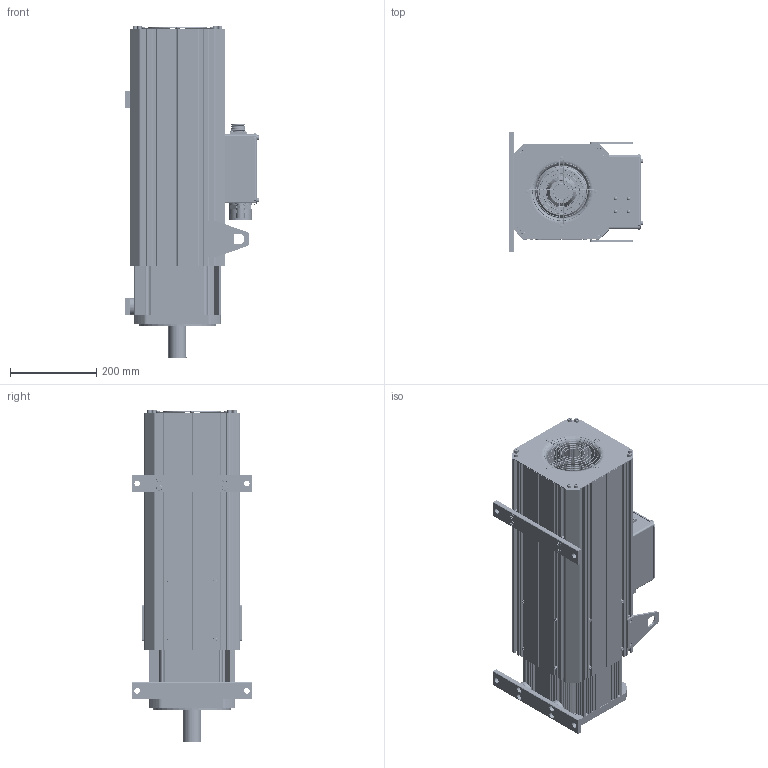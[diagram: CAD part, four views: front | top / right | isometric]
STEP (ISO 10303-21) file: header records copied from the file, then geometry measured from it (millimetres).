
FILE_DESCRIPTION((''),'2;1');
FILE_NAME('K111F15C18P_18KW_ASM','2023-05-23T14:28:35',('admin'),(''),'CREO PARAMETRIC BY PTC INC, 2019080','CREO PARAMETRIC BY PTC INC, 2019080','');
FILE_SCHEMA(('CONFIG_CONTROL_DESIGN'));
Products named in the file (45): QDG_10600-00001; ZZ_12400-04005_18KW; ZC_30400-00001; ZC_30400-01002; ZCZDQ_11200-00001; ZZZJ_80500-04005_18KW_ASM; O-RING_50000-01002; JK_K111_10200-39040; DZZJ_80200-00083_15KW_ASM; FDB_K111_12900-66067; DEGDT_11500-02003; DE_11300-00001; O-RING_50000-02003; YXHQ_20300-00001; O-RING_50000-03004; JXHT_41000-09010; JXHG_41000-00001; JXHGDK_11600-04005; M6X10; XJD_50800-11012; AD13_1; AD42P5_3; MFD_YD28-15P; HKXZ_YD28-15P_40100-00001; PDLD_4X12; JXHZJ_81100-00002_ASM; M5X25; HDG_21200-00001; M8X30; HGB_21600-00001; M4X10; FJ_40000-03004; M4X12; FJFHB_11100-02003; FHW_30500-00001; PDQ_4; MD_4; FJFHBZZ_ASM; QZCJ_10400-15016; DK_12800-32033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
Assembly tree (114 placements, depth 3):
  K111F15C18P_18KW_ASM
    QDG_10600-00001
    ZZZJ_80500-04005_18KW_ASM
      ZZ_12400-04005_18KW
      ZC_30400-00001
      ZC_30400-01002
      ZCZDQ_11200-00001
    O-RING_50000-01002
    DZZJ_80200-00083_15KW_ASM
      JK_K111_10200-39040
    FDB_K111_12900-66067
    DEGDT_11500-02003  x2
    DE_11300-00001  x2
    O-RING_50000-02003
    YXHQ_20300-00001
    O-RING_50000-03004
    JXHZJ_81100-00002_ASM
      JXHT_41000-09010
      JXHG_41000-00001
      JXHGDK_11600-04005  x4
      M6X10  x8
      XJD_50800-11012
      AD13_1
      AD42P5_3
      MFD_YD28-15P
      HKXZ_YD28-15P_40100-00001
      PDLD_4X12  x4
    M5X25  x16
    HDG_21200-00001
    M8X30  x16
    HGB_21600-00001
    M4X10  x4
    FJ_40000-03004
    M4X12  x4
    FJFHBZZ_ASM
      FJFHB_11100-02003
      FHW_30500-00001
      PDQ_4  x4
      MD_4  x4
    M6X10  x8
    ZCJZJ_22300-00007_15KW_ASM
      QZCJ_10400-15016
      DK_12800-32033  x2
      HZCJ_10400-16017
      GDK_11600-09010  x2
      M8X16  x4
Bounding box: 312.35 x 278 x 769 mm (x, y, z)
Volume: 10550441.9 mm3; surface area: 3822283.8 mm2
Topology: 123 solids, 127 shells, 6025 faces, 15826 edges, 10239 vertices
Faces by surface type: plane 2899, cylinder 2331, cone 350, torus 267, bspline 160, sphere 18
Entity records: 164363 total; most frequent: CARTESIAN_POINT 39813, DIRECTION 26411, ORIENTED_EDGE 25900, EDGE_CURVE 12958, AXIS2_PLACEMENT_3D 9354, VERTEX_POINT 8472, VECTOR 7703, LINE 7703
